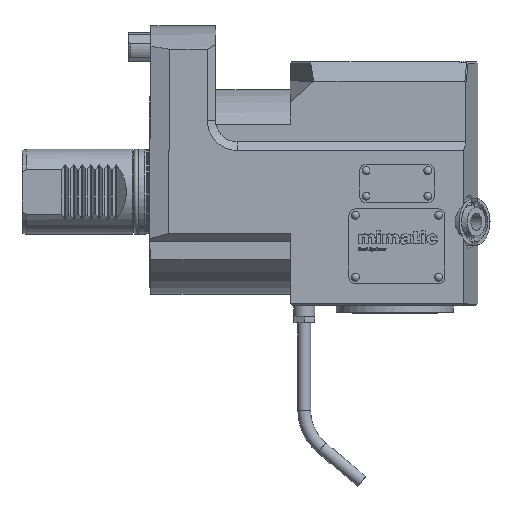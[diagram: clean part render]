
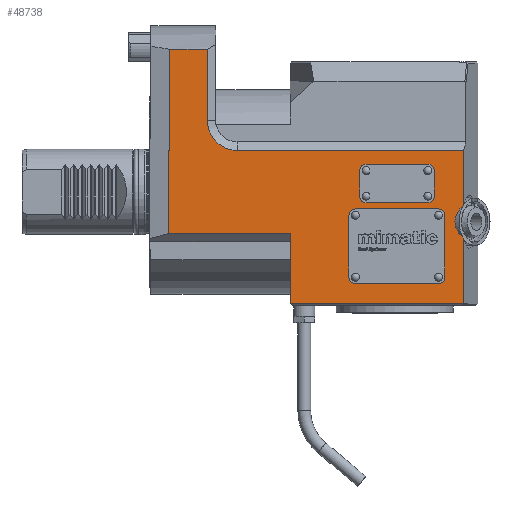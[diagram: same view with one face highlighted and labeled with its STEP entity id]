
A CAD part, front view. The second image highlights one B-rep face of the part: STEP entity #48738.
In plain terms, the highlighted planar face has unit normal (0, -1, 0).
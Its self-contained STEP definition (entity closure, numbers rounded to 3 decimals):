
#19888=ELLIPSE('',#47380,19.447,12.5);
#20047=VECTOR('',#33752,1.);
#20089=VECTOR('',#33822,1.);
#20090=VECTOR('',#33825,1.);
#20210=VECTOR('',#34209,1.);
#20213=VECTOR('',#34222,1.);
#20226=VECTOR('',#34261,1.);
#20231=VECTOR('',#34272,1.);
#20232=VECTOR('',#34273,1.);
#20233=VECTOR('',#34274,1.);
#20234=VECTOR('',#34275,1.);
#20235=VECTOR('',#34276,1.);
#20236=VECTOR('',#34277,1.);
#20237=VECTOR('',#34280,1.);
#20238=VECTOR('',#34283,1.);
#20239=VECTOR('',#34286,1.);
#20240=VECTOR('',#34289,1.);
#20241=VECTOR('',#34292,1.);
#20242=VECTOR('',#34295,1.);
#20243=VECTOR('',#34298,1.);
#21184=LINE('',#39079,#20047);
#21226=LINE('',#39171,#20089);
#21227=LINE('',#39174,#20090);
#21347=LINE('',#39530,#20210);
#21350=LINE('',#39547,#20213);
#21363=LINE('',#39588,#20226);
#21368=LINE('',#39601,#20231);
#21369=LINE('',#39603,#20232);
#21370=LINE('',#39605,#20233);
#21371=LINE('',#39607,#20234);
#21372=LINE('',#39608,#20235);
#21373=LINE('',#39611,#20236);
#21374=LINE('',#39615,#20237);
#21375=LINE('',#39619,#20238);
#21376=LINE('',#39623,#20239);
#21377=LINE('',#39627,#20240);
#21378=LINE('',#39631,#20241);
#21379=LINE('',#39635,#20242);
#21380=LINE('',#39639,#20243);
#22682=PLANE('',#47379);
#24131=ORIENTED_EDGE('',*,*,#29529,.T.);
#24132=ORIENTED_EDGE('',*,*,#29291,.T.);
#24133=ORIENTED_EDGE('',*,*,#29339,.F.);
#24134=ORIENTED_EDGE('',*,*,#29535,.F.);
#24135=ORIENTED_EDGE('',*,*,#29337,.F.);
#24136=ORIENTED_EDGE('',*,*,#29503,.F.);
#24137=ORIENTED_EDGE('',*,*,#29507,.F.);
#24138=ORIENTED_EDGE('',*,*,#29510,.F.);
#24139=ORIENTED_EDGE('',*,*,#29536,.T.);
#24140=ORIENTED_EDGE('',*,*,#29537,.F.);
#24141=ORIENTED_EDGE('',*,*,#29538,.F.);
#24142=ORIENTED_EDGE('',*,*,#29539,.T.);
#24143=ORIENTED_EDGE('',*,*,#29540,.F.);
#24144=ORIENTED_EDGE('',*,*,#29541,.T.);
#24145=ORIENTED_EDGE('',*,*,#29542,.T.);
#24146=ORIENTED_EDGE('',*,*,#29543,.T.);
#24147=ORIENTED_EDGE('',*,*,#29544,.T.);
#24148=ORIENTED_EDGE('',*,*,#29545,.T.);
#24149=ORIENTED_EDGE('',*,*,#29546,.T.);
#24150=ORIENTED_EDGE('',*,*,#29547,.T.);
#24151=ORIENTED_EDGE('',*,*,#29548,.T.);
#24152=ORIENTED_EDGE('',*,*,#29549,.F.);
#24153=ORIENTED_EDGE('',*,*,#29550,.T.);
#24154=ORIENTED_EDGE('',*,*,#29551,.F.);
#24155=ORIENTED_EDGE('',*,*,#29552,.T.);
#24156=ORIENTED_EDGE('',*,*,#29553,.F.);
#24157=ORIENTED_EDGE('',*,*,#29554,.T.);
#24158=ORIENTED_EDGE('',*,*,#29555,.F.);
#24159=ORIENTED_EDGE('',*,*,#29556,.T.);
#27292=CIRCLE('',#47362,14.);
#27297=CIRCLE('',#47381,3.);
#27298=CIRCLE('',#47382,3.);
#27299=CIRCLE('',#47383,3.);
#27300=CIRCLE('',#47384,3.);
#27301=CIRCLE('',#47385,3.);
#27302=CIRCLE('',#47386,3.);
#27303=CIRCLE('',#47387,3.);
#27304=CIRCLE('',#47388,3.);
#27848=VERTEX_POINT('',#39071);
#27850=VERTEX_POINT('',#39077);
#27885=VERTEX_POINT('',#39168);
#27886=VERTEX_POINT('',#39170);
#27887=VERTEX_POINT('',#39172);
#27991=VERTEX_POINT('',#39528);
#27992=VERTEX_POINT('',#39532);
#27996=VERTEX_POINT('',#39545);
#28007=VERTEX_POINT('',#39587);
#28012=VERTEX_POINT('',#39600);
#28013=VERTEX_POINT('',#39602);
#28014=VERTEX_POINT('',#39604);
#28015=VERTEX_POINT('',#39606);
#28016=VERTEX_POINT('',#39609);
#28017=VERTEX_POINT('',#39610);
#28018=VERTEX_POINT('',#39612);
#28019=VERTEX_POINT('',#39614);
#28020=VERTEX_POINT('',#39616);
#28021=VERTEX_POINT('',#39618);
#28022=VERTEX_POINT('',#39620);
#28023=VERTEX_POINT('',#39622);
#28024=VERTEX_POINT('',#39625);
#28025=VERTEX_POINT('',#39626);
#28026=VERTEX_POINT('',#39628);
#28027=VERTEX_POINT('',#39630);
#28028=VERTEX_POINT('',#39632);
#28029=VERTEX_POINT('',#39634);
#28030=VERTEX_POINT('',#39636);
#28031=VERTEX_POINT('',#39638);
#29291=EDGE_CURVE('',#27848,#27850,#21184,.T.);
#29337=EDGE_CURVE('',#27885,#27886,#21226,.T.);
#29339=EDGE_CURVE('',#27887,#27850,#21227,.T.);
#29503=EDGE_CURVE('',#27991,#27885,#21347,.T.);
#29507=EDGE_CURVE('',#27992,#27991,#27292,.T.);
#29510=EDGE_CURVE('',#27996,#27992,#21350,.T.);
#29529=EDGE_CURVE('',#28007,#27848,#21363,.T.);
#29535=EDGE_CURVE('',#27886,#27887,#19888,.T.);
#29536=EDGE_CURVE('',#27996,#28012,#21368,.T.);
#29537=EDGE_CURVE('',#28013,#28012,#21369,.T.);
#29538=EDGE_CURVE('',#28014,#28013,#21370,.T.);
#29539=EDGE_CURVE('',#28014,#28015,#21371,.T.);
#29540=EDGE_CURVE('',#28007,#28015,#21372,.T.);
#29541=EDGE_CURVE('',#28016,#28017,#21373,.T.);
#29542=EDGE_CURVE('',#28017,#28018,#27297,.T.);
#29543=EDGE_CURVE('',#28018,#28019,#21374,.T.);
#29544=EDGE_CURVE('',#28019,#28020,#27298,.T.);
#29545=EDGE_CURVE('',#28020,#28021,#21375,.T.);
#29546=EDGE_CURVE('',#28021,#28022,#27299,.T.);
#29547=EDGE_CURVE('',#28022,#28023,#21376,.T.);
#29548=EDGE_CURVE('',#28023,#28016,#27300,.T.);
#29549=EDGE_CURVE('',#28024,#28025,#21377,.T.);
#29550=EDGE_CURVE('',#28024,#28026,#27301,.T.);
#29551=EDGE_CURVE('',#28027,#28026,#21378,.T.);
#29552=EDGE_CURVE('',#28027,#28028,#27302,.T.);
#29553=EDGE_CURVE('',#28029,#28028,#21379,.T.);
#29554=EDGE_CURVE('',#28029,#28030,#27303,.T.);
#29555=EDGE_CURVE('',#28031,#28030,#21380,.T.);
#29556=EDGE_CURVE('',#28031,#28025,#27304,.T.);
#31258=EDGE_LOOP('',(#24131,#24132,#24133,#24134,#24135,#24136,#24137,#24138,
#24139,#24140,#24141,#24142,#24143));
#31259=EDGE_LOOP('',(#24144,#24145,#24146,#24147,#24148,#24149,#24150,#24151));
#31260=EDGE_LOOP('',(#24152,#24153,#24154,#24155,#24156,#24157,#24158,#24159));
#32296=FACE_BOUND('',#31258,.T.);
#32297=FACE_BOUND('',#31259,.T.);
#32298=FACE_BOUND('',#31260,.T.);
#33752=DIRECTION('',(81.301,0.,0.));
#33822=DIRECTION('',(0.,0.,-25.841));
#33825=DIRECTION('',(0.,0.,-30.841));
#34209=DIRECTION('',(106.301,0.,0.));
#34215=DIRECTION('',(0.,-1.,0.));
#34216=DIRECTION('',(-14.,0.,0.));
#34222=DIRECTION('',(0.,0.,-33.463));
#34261=DIRECTION('',(0.,0.,-33.));
#34268=DIRECTION('',(0.,-1.,0.));
#34269=DIRECTION('',(-1.,0.,0.));
#34270=DIRECTION('',(0.,-1.,0.));
#34271=DIRECTION('',(-1.,0.,0.));
#34272=DIRECTION('',(-17.67,0.,0.));
#34273=DIRECTION('',(0.,0.,47.463));
#34274=DIRECTION('',(0.33,0.,0.));
#34275=DIRECTION('',(0.,0.,-39.));
#34276=DIRECTION('',(-57.,0.,0.));
#34277=DIRECTION('',(29.,0.,0.));
#34278=DIRECTION('',(0.,1.,0.));
#34279=DIRECTION('',(0.,0.,3.));
#34280=DIRECTION('',(0.,0.,-12.));
#34281=DIRECTION('',(0.,1.,0.));
#34282=DIRECTION('',(3.,0.,0.));
#34283=DIRECTION('',(-29.,0.,0.));
#34284=DIRECTION('',(0.,1.,0.));
#34285=DIRECTION('',(0.,0.,-3.));
#34286=DIRECTION('',(0.,0.,12.));
#34287=DIRECTION('',(0.,1.,0.));
#34288=DIRECTION('',(-3.,0.,0.));
#34289=DIRECTION('',(0.,0.,29.));
#34290=DIRECTION('',(0.,1.,0.));
#34291=DIRECTION('',(0.,0.,-3.));
#34292=DIRECTION('',(39.,0.,0.));
#34293=DIRECTION('',(0.,1.,0.));
#34294=DIRECTION('',(0.,0.,-3.));
#34295=DIRECTION('',(0.,0.,-29.));
#34296=DIRECTION('',(0.,1.,0.));
#34297=DIRECTION('',(0.,0.,-3.));
#34298=DIRECTION('',(-39.,0.,0.));
#34299=DIRECTION('',(0.,1.,0.));
#34300=DIRECTION('',(0.,0.,-3.));
#39071=CARTESIAN_POINT('',(0.,-40.,-52.5));
#39077=CARTESIAN_POINT('',(81.301,-40.,-52.5));
#39079=CARTESIAN_POINT('',(0.,-40.,-52.5));
#39168=CARTESIAN_POINT('',(81.301,-40.,19.5));
#39170=CARTESIAN_POINT('',(81.301,-40.,-6.341));
#39171=CARTESIAN_POINT('',(81.301,-40.,19.5));
#39172=CARTESIAN_POINT('',(81.301,-40.,-21.659));
#39174=CARTESIAN_POINT('',(81.301,-40.,-21.659));
#39528=CARTESIAN_POINT('',(-25.,-40.,19.5));
#39530=CARTESIAN_POINT('',(-25.,-40.,19.5));
#39532=CARTESIAN_POINT('',(-39.,-40.,33.5));
#39541=CARTESIAN_POINT('',(-25.,-40.,33.5));
#39545=CARTESIAN_POINT('',(-39.,-40.,66.963));
#39547=CARTESIAN_POINT('',(-39.,-40.,66.963));
#39587=CARTESIAN_POINT('',(0.,-40.,-19.5));
#39588=CARTESIAN_POINT('',(0.,-40.,-19.5));
#39598=CARTESIAN_POINT('',(81.301,-40.,19.5));
#39599=CARTESIAN_POINT('',(96.67,-40.,-14.));
#39600=CARTESIAN_POINT('',(-56.67,-40.,66.963));
#39601=CARTESIAN_POINT('',(-39.,-40.,66.963));
#39602=CARTESIAN_POINT('',(-56.67,-40.,19.5));
#39603=CARTESIAN_POINT('',(-56.67,-40.,19.5));
#39604=CARTESIAN_POINT('',(-57.,-40.,19.5));
#39605=CARTESIAN_POINT('',(-57.,-40.,19.5));
#39606=CARTESIAN_POINT('',(-57.,-40.,-19.5));
#39607=CARTESIAN_POINT('',(-57.,-40.,19.5));
#39608=CARTESIAN_POINT('',(0.,-40.,-19.5));
#39609=CARTESIAN_POINT('',(35.5,-40.,13.));
#39610=CARTESIAN_POINT('',(64.5,-40.,13.));
#39611=CARTESIAN_POINT('',(35.5,-40.,13.));
#39612=CARTESIAN_POINT('',(67.5,-40.,10.));
#39613=CARTESIAN_POINT('',(64.5,-40.,10.));
#39614=CARTESIAN_POINT('',(67.5,-40.,-2.));
#39615=CARTESIAN_POINT('',(67.5,-40.,10.));
#39616=CARTESIAN_POINT('',(64.5,-40.,-5.));
#39617=CARTESIAN_POINT('',(64.5,-40.,-2.));
#39618=CARTESIAN_POINT('',(35.5,-40.,-5.));
#39619=CARTESIAN_POINT('',(64.5,-40.,-5.));
#39620=CARTESIAN_POINT('',(32.5,-40.,-2.));
#39621=CARTESIAN_POINT('',(35.5,-40.,-2.));
#39622=CARTESIAN_POINT('',(32.5,-40.,10.));
#39623=CARTESIAN_POINT('',(32.5,-40.,-2.));
#39624=CARTESIAN_POINT('',(35.5,-40.,10.));
#39625=CARTESIAN_POINT('',(72.5,-40.,-40.));
#39626=CARTESIAN_POINT('',(72.5,-40.,-11.));
#39627=CARTESIAN_POINT('',(72.5,-40.,-40.));
#39628=CARTESIAN_POINT('',(69.5,-40.,-43.));
#39629=CARTESIAN_POINT('',(69.5,-40.,-40.));
#39630=CARTESIAN_POINT('',(30.5,-40.,-43.));
#39631=CARTESIAN_POINT('',(30.5,-40.,-43.));
#39632=CARTESIAN_POINT('',(27.5,-40.,-40.));
#39633=CARTESIAN_POINT('',(30.5,-40.,-40.));
#39634=CARTESIAN_POINT('',(27.5,-40.,-11.));
#39635=CARTESIAN_POINT('',(27.5,-40.,-11.));
#39636=CARTESIAN_POINT('',(30.5,-40.,-8.));
#39637=CARTESIAN_POINT('',(30.5,-40.,-11.));
#39638=CARTESIAN_POINT('',(69.5,-40.,-8.));
#39639=CARTESIAN_POINT('',(69.5,-40.,-8.));
#39640=CARTESIAN_POINT('',(69.5,-40.,-11.));
#47362=AXIS2_PLACEMENT_3D('',#39541,#34215,#34216);
#47379=AXIS2_PLACEMENT_3D('',#39598,#34268,#34269);
#47380=AXIS2_PLACEMENT_3D('',#39599,#34270,#34271);
#47381=AXIS2_PLACEMENT_3D('',#39613,#34278,#34279);
#47382=AXIS2_PLACEMENT_3D('',#39617,#34281,#34282);
#47383=AXIS2_PLACEMENT_3D('',#39621,#34284,#34285);
#47384=AXIS2_PLACEMENT_3D('',#39624,#34287,#34288);
#47385=AXIS2_PLACEMENT_3D('',#39629,#34290,#34291);
#47386=AXIS2_PLACEMENT_3D('',#39633,#34293,#34294);
#47387=AXIS2_PLACEMENT_3D('',#39637,#34296,#34297);
#47388=AXIS2_PLACEMENT_3D('',#39640,#34299,#34300);
#48738=ADVANCED_FACE('',(#32296,#32297,#32298),#22682,.T.);
